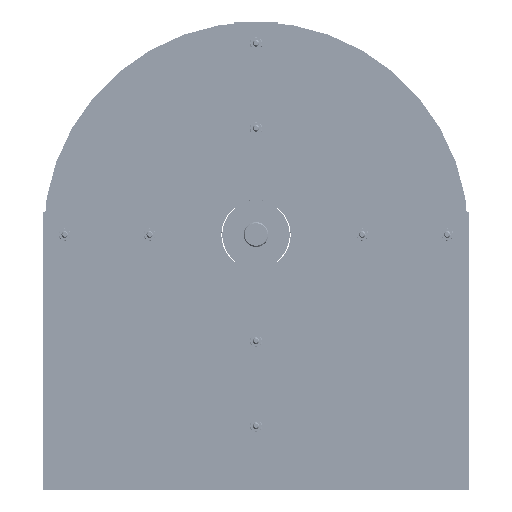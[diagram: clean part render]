
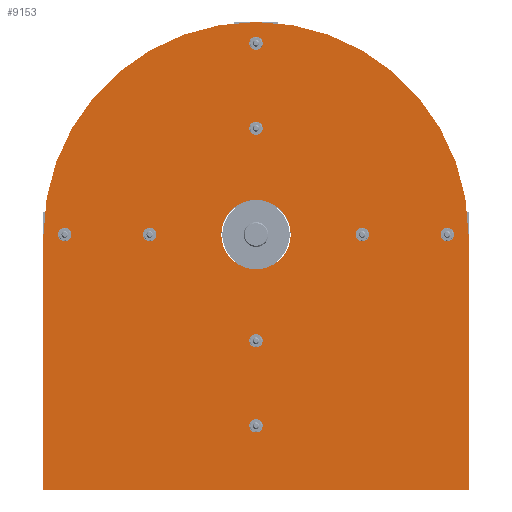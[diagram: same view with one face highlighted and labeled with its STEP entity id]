
A CAD part, top view. The second image highlights one B-rep face of the part: STEP entity #9153.
In plain terms, the highlighted planar face has unit normal (0, 0, 1).
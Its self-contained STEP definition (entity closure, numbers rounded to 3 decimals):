
#9017=CARTESIAN_POINT('',(0.,228.6,7.938));
#9018=DIRECTION('',(0.,0.,-1.));
#9019=DIRECTION('',(1.,0.,0.));
#9020=AXIS2_PLACEMENT_3D('',#9017,#9018,#9019);
#9022=CARTESIAN_POINT('',(0.,228.6,7.938));
#9023=DIRECTION('',(0.,0.,-1.));
#9024=DIRECTION('',(-1.,0.,0.));
#9025=AXIS2_PLACEMENT_3D('',#9022,#9023,#9024);
#9027=DIRECTION('',(1.,0.,0.));
#9028=VECTOR('',#9027,381.);
#9029=CARTESIAN_POINT('',(-190.5,0.,7.938));
#9030=LINE('',#9029,#9028);
#9031=DIRECTION('',(0.,-1.,0.));
#9032=VECTOR('',#9031,228.6);
#9033=CARTESIAN_POINT('',(-190.5,228.6,7.938));
#9034=LINE('',#9033,#9032);
#9035=CARTESIAN_POINT('',(0.,228.6,7.938));
#9036=DIRECTION('',(0.,0.,1.));
#9037=DIRECTION('',(1.,0.,0.));
#9038=AXIS2_PLACEMENT_3D('',#9035,#9036,#9037);
#9040=DIRECTION('',(0.,1.,0.));
#9041=VECTOR('',#9040,228.6);
#9042=CARTESIAN_POINT('',(190.5,0.,7.938));
#9043=LINE('',#9042,#9041);
#9072=CARTESIAN_POINT('',(31.115,228.6,7.938));
#9073=CARTESIAN_POINT('',(-31.115,228.6,7.938));
#9074=VERTEX_POINT('',#9072);
#9075=VERTEX_POINT('',#9073);
#9076=CARTESIAN_POINT('',(-190.5,0.,7.938));
#9077=CARTESIAN_POINT('',(190.5,0.,7.938));
#9078=VERTEX_POINT('',#9076);
#9079=VERTEX_POINT('',#9077);
#9080=CARTESIAN_POINT('',(190.5,228.6,7.938));
#9081=VERTEX_POINT('',#9080);
#9082=CARTESIAN_POINT('',(-190.5,228.6,7.938));
#9083=VERTEX_POINT('',#9082);
#9134=CARTESIAN_POINT('',(0.,0.,7.938));
#9135=DIRECTION('',(0.,0.,1.));
#9136=DIRECTION('',(1.,0.,0.));
#9137=AXIS2_PLACEMENT_3D('',#9134,#9135,#9136);
#9138=PLANE('',#9137);
#9140=ORIENTED_EDGE('',*,*,#9139,.F.);
#9142=ORIENTED_EDGE('',*,*,#9141,.F.);
#9144=ORIENTED_EDGE('',*,*,#9143,.F.);
#9146=ORIENTED_EDGE('',*,*,#9145,.F.);
#9147=EDGE_LOOP('',(#9140,#9142,#9144,#9146));
#9148=FACE_OUTER_BOUND('',#9147,.F.);
#9149=ORIENTED_EDGE('',*,*,#9114,.F.);
#9150=ORIENTED_EDGE('',*,*,#9128,.F.);
#9151=EDGE_LOOP('',(#9149,#9150));
#9152=FACE_BOUND('',#9151,.F.);
#9021=CIRCLE('',#9020,31.115);
#9026=CIRCLE('',#9025,31.115);
#9039=CIRCLE('',#9038,190.5);
#9114=EDGE_CURVE('',#9074,#9075,#9021,.T.);
#9128=EDGE_CURVE('',#9075,#9074,#9026,.T.);
#9139=EDGE_CURVE('',#9078,#9079,#9030,.T.);
#9141=EDGE_CURVE('',#9083,#9078,#9034,.T.);
#9143=EDGE_CURVE('',#9081,#9083,#9039,.T.);
#9145=EDGE_CURVE('',#9079,#9081,#9043,.T.);
#9153=ADVANCED_FACE('',(#9148,#9152),#9138,.T.);
